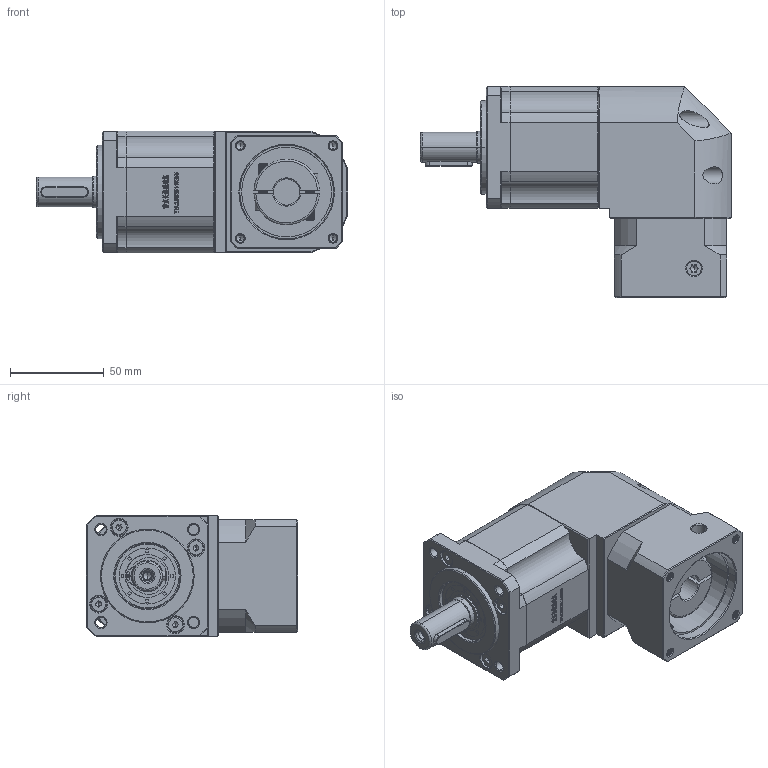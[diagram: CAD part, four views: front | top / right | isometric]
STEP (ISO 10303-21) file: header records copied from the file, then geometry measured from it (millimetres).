
FILE_DESCRIPTION (( 'STEP AP214' ), '1' );
FILE_NAME ('ZBR60-D16-L2-14-50-70-M5.STEP', '2022-04-19T08:54:06', ( '' ), ( 'Microsoft' ), 'SwSTEP 2.0', 'SolidWorks 2016', '' );
FILE_SCHEMA (( 'AUTOMOTIVE_DESIGN' ));
Length unit declared in the file: millimetre
Products named in the file (1): ZBR60-D16-L2-14-50-70-M5
Bounding box: 166 x 112.7 x 65 mm (x, y, z)
Volume: 587156.5 mm3; surface area: 81930.8 mm2
Topology: 5 solids, 5 shells, 2843 faces, 7685 edges, 4978 vertices
Faces by surface type: plane 1472, bspline 591, cylinder 432, cone 328, torus 20
Entity records: 155339 total; most frequent: CARTESIAN_POINT 57031, ORIENTED_EDGE 15310, DIRECTION 11619, EDGE_CURVE 7655, LINE 5059, VECTOR 5059, VERTEX_POINT 4978, AXIS2_PLACEMENT_3D 3280
